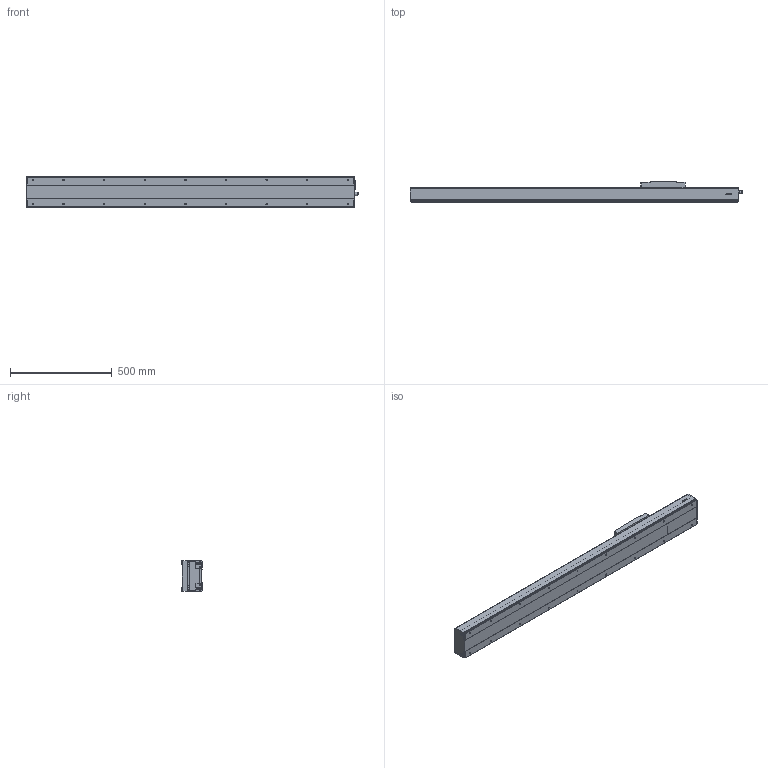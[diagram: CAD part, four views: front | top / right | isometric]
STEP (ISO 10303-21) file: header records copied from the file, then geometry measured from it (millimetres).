
FILE_DESCRIPTION(/* description */ (''),/* implementation_level */ '2;1');
FILE_NAME(/* name */ 'D:\混合母檔20191031\混和母檔\混和母檔\bin\Debug\Download\3D\KS150-20C-1100AFI\KS150-20C-1100AFI.stp',/* time_stamp */ '2019-11-04T16:10:06+08:00',/* author */ ('user'),/* organization */ (''),/* preprocessor_version */ 'ST-DEVELOPER v16.13',/* originating_system */ 'Autodesk Inventor 2018',/* authorisation */ '');
FILE_SCHEMA (('AUTOMOTIVE_DESIGN { 1 0 10303 214 3 1 1 }'));
Length unit declared in the file: millimetre
Products named in the file (3): KS150-20C-1100AFI; KS150-FI; KS150-SL
Assembly tree (2 placements, depth 2):
  KS150-20C-1100AFI
    KS150-FI
    KS150-SL
Bounding box: 1635.05 x 100 x 152.4 mm (x, y, z)
Volume: 6582280.7 mm3; surface area: 1587849.7 mm2
Topology: 4 solids, 8 shells, 1249 faces, 3295 edges, 2136 vertices
Faces by surface type: plane 615, cone 232, cylinder 194, bspline 136, torus 68, sphere 4
Full cylindrical faces by diameter (mm): 3.242 x12, 3.571 x8, 4.134 x4, 4.5 x8, 4.509 x6, 4.917 x4, 5 x18, 5.5 x12, 6 x2, 6.647 x22, 8 x4, 8.4 x8, 9.3 x12, 10.437 x1, 12 x1, 14 x1, 15 x1, 15.538 x1, 23 x1, 46 x1, 50 x1
Entity records: 41128 total; most frequent: CARTESIAN_POINT 12744, ORIENTED_EDGE 5856, DIRECTION 5457, EDGE_CURVE 2928, VERTEX_POINT 2024, AXIS2_PLACEMENT_3D 1896, LINE 1665, VECTOR 1665
